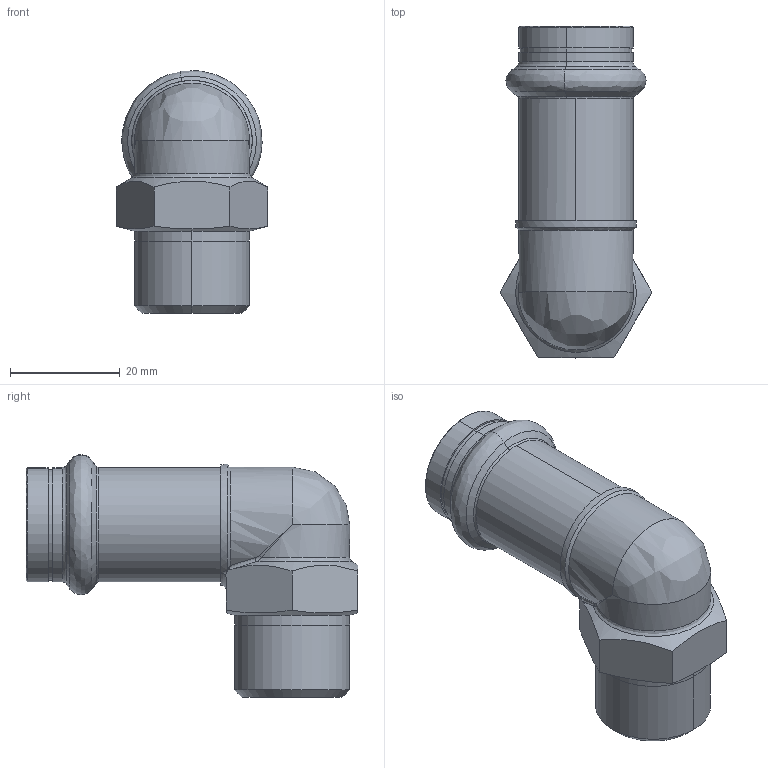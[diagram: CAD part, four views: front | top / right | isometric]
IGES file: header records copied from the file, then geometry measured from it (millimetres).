
Start section: Elysium IGES Interface
Global section: file name: F:\3d modellen sudo\S-Pr VP\SP6092GV\6092GVW1812.igs; native system: CoCreate Modeling 17.00A  17-Jun-2010; preprocessor: CoCreate IGES_3D V2.2; author: Unknown; organization: Unknown; date: 20130124.152721; units: millimetre
Bounding box: 27.71 x 60.5 x 44.29 mm (x, y, z)
Volume: 12410.4 mm3; surface area: 10140.9 mm2
Topology: 1 solids, 1 shells, 88 faces, 203 edges, 120 vertices
Faces by surface type: bspline 88
